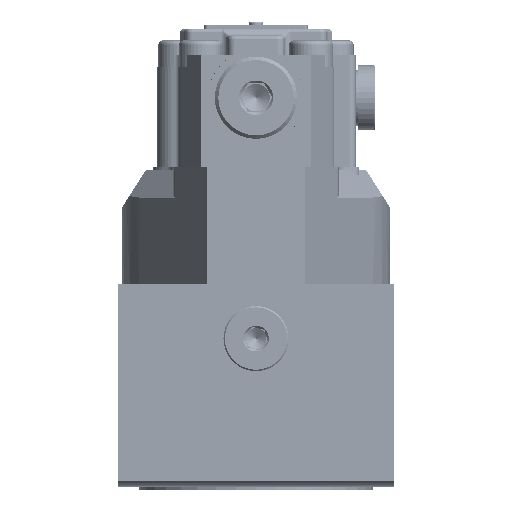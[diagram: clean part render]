
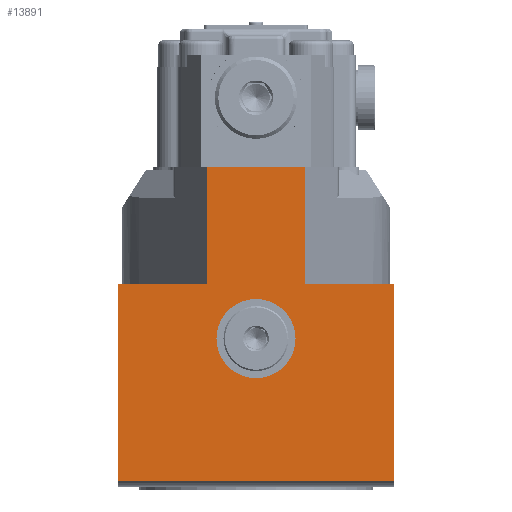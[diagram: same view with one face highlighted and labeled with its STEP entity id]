
A CAD part, left-side view. The second image highlights one B-rep face of the part: STEP entity #13891.
In plain terms, the highlighted planar face has unit normal (-1, 0, 0).
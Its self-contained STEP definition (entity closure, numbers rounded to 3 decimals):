
#1968=LINE('',#80694,#2641);
#1991=LINE('',#80755,#2664);
#1992=LINE('',#80758,#2665);
#1993=LINE('',#80759,#2666);
#1994=LINE('',#80761,#2667);
#1995=LINE('',#80763,#2668);
#1996=LINE('',#80765,#2669);
#1997=LINE('',#80767,#2670);
#2641=VECTOR('',#21369,1.);
#2664=VECTOR('',#21414,1.);
#2665=VECTOR('',#21415,1.);
#2666=VECTOR('',#21416,1.);
#2667=VECTOR('',#21417,1.);
#2668=VECTOR('',#21418,1.);
#2669=VECTOR('',#21419,1.);
#2670=VECTOR('',#21420,1.);
#3503=PLANE('',#18063);
#4718=EDGE_LOOP('',(#7875));
#4719=EDGE_LOOP('',(#7876,#7877,#7878,#7879,#7880,#7881,#7882,#7883));
#7875=ORIENTED_EDGE('',*,*,#10820,.F.);
#7876=ORIENTED_EDGE('',*,*,#10821,.F.);
#7877=ORIENTED_EDGE('',*,*,#10822,.T.);
#7878=ORIENTED_EDGE('',*,*,#10791,.F.);
#7879=ORIENTED_EDGE('',*,*,#10823,.T.);
#7880=ORIENTED_EDGE('',*,*,#10824,.F.);
#7881=ORIENTED_EDGE('',*,*,#10825,.F.);
#7882=ORIENTED_EDGE('',*,*,#10826,.T.);
#7883=ORIENTED_EDGE('',*,*,#10827,.F.);
#10791=EDGE_CURVE('',#16324,#16325,#1968,.T.);
#10820=EDGE_CURVE('',#16350,#16350,#12142,.T.);
#10821=EDGE_CURVE('',#16351,#16352,#1991,.T.);
#10822=EDGE_CURVE('',#16351,#16325,#1992,.T.);
#10823=EDGE_CURVE('',#16324,#16353,#1993,.T.);
#10824=EDGE_CURVE('',#16354,#16353,#1994,.T.);
#10825=EDGE_CURVE('',#16355,#16354,#1995,.T.);
#10826=EDGE_CURVE('',#16355,#16356,#1996,.T.);
#10827=EDGE_CURVE('',#16352,#16356,#1997,.T.);
#12142=CIRCLE('',#18062,11.5);
#13891=ADVANCED_FACE('',(#15041,#15042),#3503,.T.);
#15041=FACE_BOUND('',#4718,.T.);
#15042=FACE_BOUND('',#4719,.T.);
#16324=VERTEX_POINT('',#80695);
#16325=VERTEX_POINT('',#80696);
#16350=VERTEX_POINT('',#80754);
#16351=VERTEX_POINT('',#80756);
#16352=VERTEX_POINT('',#80757);
#16353=VERTEX_POINT('',#80760);
#16354=VERTEX_POINT('',#80762);
#16355=VERTEX_POINT('',#80764);
#16356=VERTEX_POINT('',#80766);
#18062=AXIS2_PLACEMENT_3D('',#80753,#21412,#21413);
#18063=AXIS2_PLACEMENT_3D('',#80768,#21421,#21422);
#21369=DIRECTION('',(0.,1.,0.));
#21412=DIRECTION('',(-1.,0.,0.));
#21413=DIRECTION('',(0.,0.,-1.));
#21414=DIRECTION('',(0.,-1.,0.));
#21415=DIRECTION('',(0.,0.,-1.));
#21416=DIRECTION('',(0.,0.,1.));
#21417=DIRECTION('',(0.,-1.,0.));
#21418=DIRECTION('',(0.,0.,-1.));
#21419=DIRECTION('',(0.,1.,0.));
#21420=DIRECTION('',(0.,0.,1.));
#21421=DIRECTION('',(-1.,0.,0.));
#21422=DIRECTION('',(0.,0.,-1.));
#80694=CARTESIAN_POINT('',(-745.26,136.121,-229.283));
#80695=CARTESIAN_POINT('',(-745.26,-96.932,-229.283));
#80696=CARTESIAN_POINT('',(-745.26,-16.932,-229.283));
#80753=CARTESIAN_POINT('',(-745.26,-56.932,-188.038));
#80754=CARTESIAN_POINT('',(-745.26,-56.932,-199.538));
#80755=CARTESIAN_POINT('',(-745.26,-17.932,-172.038));
#80756=CARTESIAN_POINT('',(-745.26,-16.932,-172.038));
#80757=CARTESIAN_POINT('',(-745.26,-42.653,-172.038));
#80758=CARTESIAN_POINT('',(-745.26,-16.932,-180.538));
#80759=CARTESIAN_POINT('',(-745.26,-96.932,-180.538));
#80760=CARTESIAN_POINT('',(-745.26,-96.932,-172.038));
#80761=CARTESIAN_POINT('',(-745.26,-98.332,-172.038));
#80762=CARTESIAN_POINT('',(-745.26,-71.211,-172.038));
#80763=CARTESIAN_POINT('',(-745.26,-71.211,-172.038));
#80764=CARTESIAN_POINT('',(-745.26,-71.211,-138.038));
#80765=CARTESIAN_POINT('',(-745.26,-98.332,-138.038));
#80766=CARTESIAN_POINT('',(-745.26,-42.653,-138.038));
#80767=CARTESIAN_POINT('',(-745.26,-42.653,-172.038));
#80768=CARTESIAN_POINT('',(-745.26,-56.932,-180.538));
